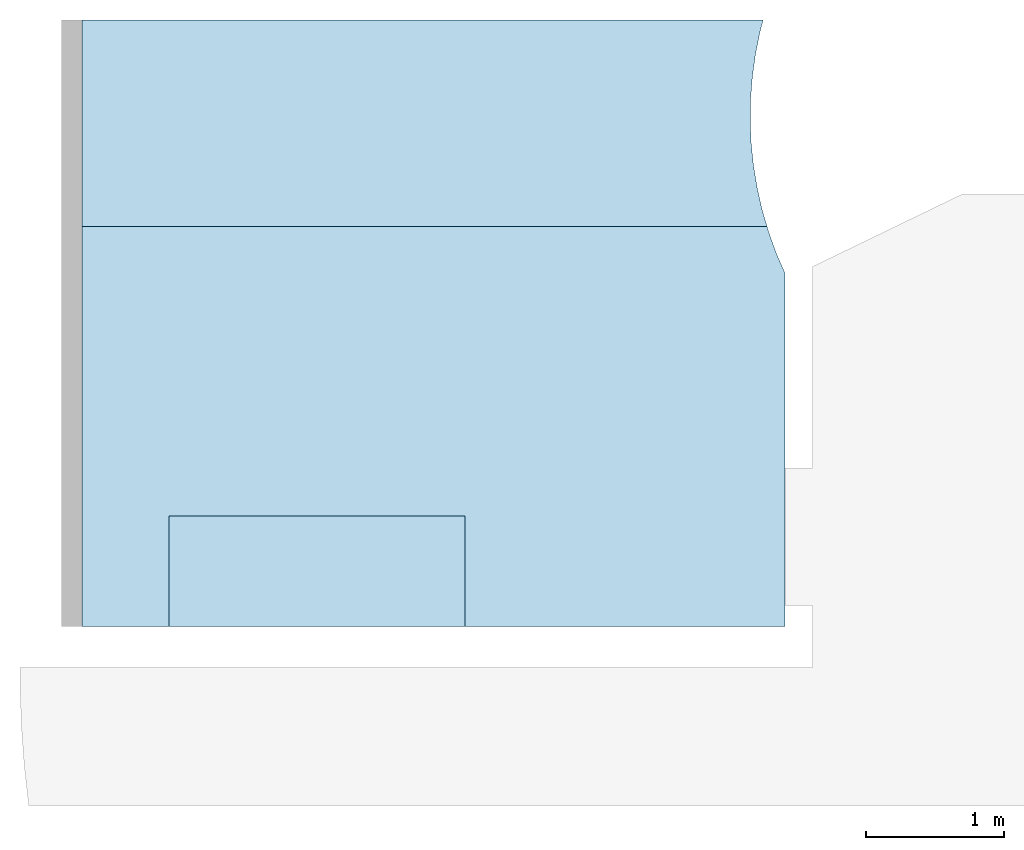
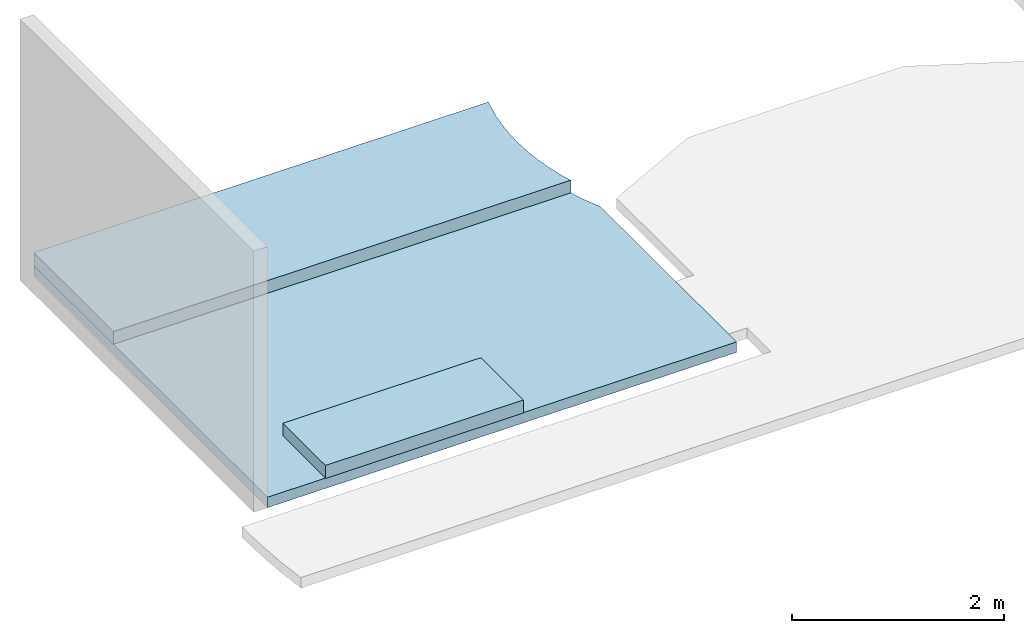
# One storey, part 1 of 3: 3 slabs.
"""IFC4 building model written with IfcOpenShell, lengths in millimetres."""

from ifc_helpers import new_model, entity, si_unit, converted_unit, derived_unit, direction, frame, origin_with_axes, place, context, subcontext, project, spatial, polygons, material, constituent, constituent_set, type_object, element, save


model = new_model("IFC4")

# Units and contexts
model_context = context("Model", 3, precision=0.01, world=origin_with_axes(), true_north=direction((0.0, 1.0)))
body_context = subcontext(model_context, "Body", "Model", "MODEL_VIEW")
ifc_project = project(units=[si_unit("LENGTHUNIT", "METRE", prefix="MILLI"), si_unit("AREAUNIT", "SQUARE_METRE"), si_unit("VOLUMEUNIT", "CUBIC_METRE"), converted_unit("PLANEANGLEUNIT", "DEGREE", entity("IfcPlaneAngleMeasure", 0.0174532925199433), si_unit("PLANEANGLEUNIT", "RADIAN"), dimensions=[0, 0, 0, 0, 0, 0, 0]), converted_unit("TIMEUNIT", "Year", entity("IfcTimeMeasure", 31557600.0), si_unit("TIMEUNIT", "SECOND"), dimensions=[0, 0, 1, 0, 0, 0, 0]), si_unit("MASSUNIT", "GRAM", prefix="KILO"), si_unit("THERMODYNAMICTEMPERATUREUNIT", "DEGREE_CELSIUS"), si_unit("LUMINOUSINTENSITYUNIT", "LUMEN"), si_unit("ENERGYUNIT", "JOULE", prefix="MEGA"), derived_unit("THERMALCONDUCTANCEUNIT", [(si_unit("POWERUNIT", "WATT"), 1), (si_unit("LENGTHUNIT", "METRE"), -1), (si_unit("THERMODYNAMICTEMPERATUREUNIT", "KELVIN"), -1)]), derived_unit("SPECIFICHEATCAPACITYUNIT", [(si_unit("ENERGYUNIT", "JOULE"), 1), (si_unit("MASSUNIT", "GRAM", prefix="KILO"), -1), (si_unit("THERMODYNAMICTEMPERATUREUNIT", "KELVIN"), -1)]), derived_unit("MASSDENSITYUNIT", [(si_unit("MASSUNIT", "GRAM", prefix="KILO"), 1), (si_unit("VOLUMEUNIT", "CUBIC_METRE"), -1)])], contexts=[model_context])

# Site, building, storey
site_placement = place(None, origin_with_axes())
site = spatial("IfcSite", under=ifc_project, at=site_placement, Name="Exteriér", CompositionType="ELEMENT")
building_placement = place(site_placement, origin_with_axes())
building = spatial("IfcBuilding", under=site, at=building_placement, Name="Univerzitní lezecké centrum", CompositionType="ELEMENT")
storey_placement = place(building_placement, frame((0.0, 0.0, 6400.0), z_axis=(0.0, 0.0, 1.0), x_axis=(1.0, 0.0, 0.0)))
storey = spatial("IfcBuildingStorey", under=building, at=storey_placement, Name="3.NP", CompositionType="ELEMENT", Elevation=6400.0)

# Slabs
ifc_material_1 = material(Name="Polyuretanová stěrka")
ifc_constituent_1 = constituent(ifc_material_1, Name="Polyuretanová stěrka")
ifc_material_2 = material(Name="Penetrační nátěr pod polyuretanovou stěrku")
ifc_constituent_2 = constituent(ifc_material_2, Name="Penetrační nátěr pod polyuretanovou stěrku")
ifc_material_3 = material(Name="Samonivelační stěrková hmota")
ifc_constituent_3 = constituent(ifc_material_3, Name="Samonivelační stěrková hmota")
ifc_material_4 = material(Name="Betonová mazanina")
ifc_constituent_4 = constituent(ifc_material_4, Name="Betonová mazanina")
ifc_material_5 = material(Name="PE fólie")
ifc_constituent_5 = constituent(ifc_material_5, Name="PE fólie")
ifc_material_6 = material(Name="Akustická izolace - EPS")
ifc_constituent_6 = constituent(ifc_material_6, Name="Akustická izolace - EPS")
ifc_constituent_set = constituent_set(constituents=[ifc_constituent_1, ifc_constituent_2, ifc_constituent_3, ifc_constituent_4, ifc_constituent_5, ifc_constituent_6], Name="!Podlaha v patře - polyuretanová stěrka")
slab_type_1 = type_object("IfcSlabType", Name="!Podlaha v patře - polyuretanová stěrka 120", PredefinedType="FLOOR")
slab_1_placement = place(storey_placement, frame((-157.8293132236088, 4399.999999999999, 0.0), z_axis=(0.0, 0.0, 1.0), x_axis=(1.0, 0.0, 0.0)))
element("IfcSlab", 1, at=slab_1_placement, inside=storey, type_object=slab_type_1, material=ifc_constituent_set, Name="P05b", PredefinedType="FLOOR", context=body_context, shape_type="Tessellation", body=[
    polygons([(28.64367904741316, -1500.000000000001, -1.000000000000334), (28.64367904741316, -1500.000000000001, 0.0), (41.23572559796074, -1542.701002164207, 0.0), (41.23572559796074, -1542.701002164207, -1.000000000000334), (-4942.319037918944, -1500.000000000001, 0.0), (-4942.319037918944, -1500.000000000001, -1.000000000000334), (-4942.319037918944, -4399.999999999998, 0.0), (-4312.027014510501, -4399.999999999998, 0.0), (-4312.027014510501, -3599.999999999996, 0.0), (-2162.027014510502, -3599.999999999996, 0.0), (-2162.027014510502, -4399.999999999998, 0.0), (157.5131747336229, -4399.999999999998, 0.0), (157.5977066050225, -3250.002226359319, 0.0), (157.5819496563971, -1834.466759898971, 0.0), (97.38379884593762, -1697.59424776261, 0.0), (97.38379884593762, -1697.59424776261, -1.000000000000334), (157.5819496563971, -1834.466759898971, -1.000000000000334), (157.5977066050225, -3250.002226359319, -1.000000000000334), (157.5131747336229, -4399.999999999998, -1.000000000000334), (-2162.027014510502, -4399.999999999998, -1.000000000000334), (-2162.027014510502, -3599.999999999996, -1.000000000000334), (-4312.027014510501, -3599.999999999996, -1.000000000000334), (-4312.027014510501, -4399.999999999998, -1.000000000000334), (-4942.319037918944, -4399.999999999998, -1.000000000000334)], [[[1, 2, 3, 4]], [[5, 2, 1, 6]], [[2, 5, 7, 8, 9, 10, 11, 12, 13, 14, 15, 3]], [[3, 15, 16, 4]], [[6, 1, 4, 16, 17, 18, 19, 20, 21, 22, 23, 24]], [[5, 6, 24, 7]], [[24, 23, 8, 7]], [[22, 9, 8, 23]], [[21, 10, 9, 22]], [[20, 11, 10, 21]], [[12, 11, 20, 19]], [[18, 13, 12, 19]], [[14, 13, 18, 17]], [[15, 14, 17, 16]]], closed=True),
    polygons([(28.64367904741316, -1500.000000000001, -2.000000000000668), (28.64367904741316, -1500.000000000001, -1.000000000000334), (41.23572559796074, -1542.701002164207, -1.000000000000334), (41.23572559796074, -1542.701002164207, -2.000000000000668), (-4942.319037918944, -1500.000000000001, -1.000000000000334), (-4942.319037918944, -1500.000000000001, -2.000000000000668), (-4942.319037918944, -4399.999999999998, -1.000000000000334), (-4312.027014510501, -4399.999999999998, -1.000000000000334), (-4312.027014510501, -3599.999999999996, -1.000000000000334), (-2162.027014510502, -3599.999999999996, -1.000000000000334), (-2162.027014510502, -4399.999999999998, -1.000000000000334), (157.5131747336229, -4399.999999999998, -1.000000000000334), (157.5977066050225, -3250.002226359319, -1.000000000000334), (157.5819496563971, -1834.466759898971, -1.000000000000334), (97.38379884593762, -1697.59424776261, -1.000000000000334), (97.38379884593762, -1697.59424776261, -2.000000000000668), (157.5819496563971, -1834.466759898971, -2.000000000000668), (157.5977066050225, -3250.002226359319, -2.000000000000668), (157.5131747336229, -4399.999999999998, -2.000000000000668), (-2162.027014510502, -4399.999999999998, -2.000000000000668), (-2162.027014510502, -3599.999999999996, -2.000000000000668), (-4312.027014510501, -3599.999999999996, -2.000000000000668), (-4312.027014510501, -4399.999999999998, -2.000000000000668), (-4942.319037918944, -4399.999999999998, -2.000000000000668)], [[[1, 2, 3, 4]], [[5, 2, 1, 6]], [[2, 5, 7, 8, 9, 10, 11, 12, 13, 14, 15, 3]], [[3, 15, 16, 4]], [[6, 1, 4, 16, 17, 18, 19, 20, 21, 22, 23, 24]], [[5, 6, 24, 7]], [[24, 23, 8, 7]], [[22, 9, 8, 23]], [[21, 10, 9, 22]], [[20, 11, 10, 21]], [[12, 11, 20, 19]], [[18, 13, 12, 19]], [[14, 13, 18, 17]], [[15, 14, 17, 16]]], closed=True),
    polygons([(28.64367904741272, -1500.000000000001, -5.00000000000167), (28.64367904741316, -1500.000000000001, -1.99999999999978), (41.23572559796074, -1542.701002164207, -1.99999999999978), (41.23572559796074, -1542.701002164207, -4.999999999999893), (-4942.319037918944, -1500.000000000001, -1.99999999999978), (-4942.319037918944, -1500.000000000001, -5.00000000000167), (-4942.319037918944, -4399.999999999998, -1.99999999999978), (-4312.027014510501, -4399.999999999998, -1.99999999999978), (-4312.027014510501, -3599.999999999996, -1.99999999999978), (-2162.027014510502, -3599.999999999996, -1.99999999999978), (-2162.027014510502, -4399.999999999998, -1.99999999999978), (157.5131747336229, -4399.999999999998, -1.99999999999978), (157.5977066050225, -3250.002226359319, -1.99999999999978), (157.5819496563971, -1834.466759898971, -1.99999999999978), (97.38379884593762, -1697.59424776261, -1.99999999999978), (97.38379884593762, -1697.59424776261, -4.999999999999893), (157.5819496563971, -1834.466759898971, -4.999999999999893), (157.5977066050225, -3250.002226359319, -4.999999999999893), (157.5131747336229, -4399.999999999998, -4.999999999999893), (-2162.027014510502, -4399.999999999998, -4.999999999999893), (-2162.027014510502, -3599.999999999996, -4.999999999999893), (-4312.027014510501, -3599.999999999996, -4.999999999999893), (-4312.027014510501, -4399.999999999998, -4.999999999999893), (-4942.319037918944, -4399.999999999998, -4.999999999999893)], [[[1, 2, 3, 4]], [[5, 2, 1, 6]], [[2, 5, 7, 8, 9, 10, 11, 12, 13, 14, 15, 3]], [[3, 15, 16, 4]], [[6, 1, 4, 16, 17, 18, 19, 20, 21, 22, 23, 24]], [[5, 6, 24, 7]], [[24, 23, 8, 7]], [[22, 9, 8, 23]], [[21, 10, 9, 22]], [[20, 11, 10, 21]], [[12, 11, 20, 19]], [[18, 13, 12, 19]], [[14, 13, 18, 17]], [[15, 14, 17, 16]]], closed=True),
    polygons([(0.0, 0.0, -4.999999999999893), (-4942.319037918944, 0.0, -4.999999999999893), (-4942.319037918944, -4399.999999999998, -4.999999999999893), (157.5131747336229, -4399.999999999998, -4.999999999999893), (157.5977066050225, -3250.002226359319, -4.999999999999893), (157.5819496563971, -1834.466759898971, -4.999999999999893), (97.38379884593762, -1697.59424776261, -4.999999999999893), (41.23572559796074, -1542.701002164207, -4.999999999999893), (-5.365002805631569, -1384.672853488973, -4.999999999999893), (-42.24502859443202, -1224.097676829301, -4.999999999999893), (-69.26715565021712, -1061.572822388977, -4.999999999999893), (-86.33085988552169, -897.702893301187, -4.999999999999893), (-93.37266319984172, -733.0974964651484, -4.999999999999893), (-90.36636962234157, -568.3689747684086, -4.999999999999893), (-77.32316276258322, -404.1301291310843, -4.999999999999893), (-54.29156420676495, -240.9919388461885, -4.999999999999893), (-21.35725301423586, -79.56128869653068, -4.999999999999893), (0.0, 0.0, -78.99999999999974), (-4942.319037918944, 0.0, -78.99999999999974), (-4942.319037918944, -4399.999999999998, -78.99999999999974), (157.5131747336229, -4399.999999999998, -78.99999999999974), (157.5977066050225, -3250.002226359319, -78.99999999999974), (157.5819496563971, -1834.466759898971, -78.99999999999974), (97.38379884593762, -1697.59424776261, -78.99999999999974), (41.23572559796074, -1542.701002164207, -78.99999999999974), (-5.365002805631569, -1384.672853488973, -78.99999999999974), (-42.24502859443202, -1224.097676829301, -78.99999999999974), (-69.26715565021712, -1061.572822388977, -78.99999999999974), (-86.33085988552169, -897.702893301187, -78.99999999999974), (-93.37266319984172, -733.0974964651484, -78.99999999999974), (-90.36636962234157, -568.3689747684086, -78.99999999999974), (-77.32316276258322, -404.1301291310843, -78.99999999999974), (-54.29156420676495, -240.9919388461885, -78.99999999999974), (-21.35725301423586, -79.56128869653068, -78.99999999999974)], [[[1, 2, 3, 4, 5, 6, 7, 8, 9, 10, 11, 12, 13, 14, 15, 16, 17]], [[2, 1, 18, 19]], [[2, 19, 20, 3]], [[3, 20, 21, 4]], [[22, 5, 4, 21]], [[6, 5, 22, 23]], [[7, 6, 23, 24]], [[8, 7, 24, 25]], [[9, 8, 25, 26]], [[10, 9, 26, 27]], [[11, 10, 27, 28]], [[12, 11, 28, 29]], [[13, 12, 29, 30]], [[14, 13, 30, 31]], [[15, 14, 31, 32]], [[16, 15, 32, 33]], [[17, 16, 33, 34]], [[1, 17, 34, 18]], [[23, 22, 21, 20, 19, 18, 34, 33, 32, 31, 30, 29, 28, 27, 26, 25, 24]]], closed=True),
    polygons([(-4942.319037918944, -4399.999999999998, -78.99999999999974), (157.5131747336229, -4399.999999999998, -78.99999999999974), (157.5977066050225, -3250.002226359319, -78.99999999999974), (157.5819496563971, -1834.466759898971, -78.99999999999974), (97.38379884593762, -1697.59424776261, -78.99999999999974), (41.23572559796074, -1542.701002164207, -78.99999999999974), (-5.365002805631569, -1384.672853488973, -78.99999999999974), (-42.24502859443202, -1224.097676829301, -78.99999999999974), (-69.26715565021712, -1061.572822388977, -78.99999999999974), (-86.33085988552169, -897.702893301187, -78.99999999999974), (-93.37266319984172, -733.0974964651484, -78.99999999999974), (-90.36636962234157, -568.3689747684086, -78.99999999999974), (-77.32316276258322, -404.1301291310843, -78.99999999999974), (-54.29156420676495, -240.9919388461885, -78.99999999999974), (-21.35725301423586, -79.56128869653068, -78.99999999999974), (0.0, 0.0, -78.99999999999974), (-4942.319037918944, 0.0, -78.99999999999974), (157.5131747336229, -4399.999999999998, -79.49999999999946), (-4942.319037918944, -4399.999999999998, -79.49999999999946), (157.5977066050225, -3250.002226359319, -79.49999999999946), (157.5819496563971, -1834.466759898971, -79.49999999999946), (97.38379884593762, -1697.59424776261, -79.49999999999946), (41.23572559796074, -1542.701002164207, -79.49999999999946), (-5.365002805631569, -1384.672853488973, -79.49999999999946), (-42.24502859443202, -1224.097676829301, -79.49999999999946), (-69.26715565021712, -1061.572822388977, -79.49999999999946), (-86.33085988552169, -897.702893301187, -79.49999999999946), (-93.37266319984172, -733.0974964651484, -79.49999999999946), (-90.36636962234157, -568.3689747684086, -79.49999999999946), (-77.32316276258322, -404.1301291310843, -79.49999999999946), (-54.29156420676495, -240.9919388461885, -79.49999999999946), (-21.35725301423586, -79.56128869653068, -79.49999999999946), (0.0, 0.0, -79.49999999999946), (-4942.319037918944, 0.0, -79.49999999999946)], [[[1, 2, 3, 4, 5, 6, 7, 8, 9, 10, 11, 12, 13, 14, 15, 16, 17]], [[18, 2, 1, 19]], [[2, 18, 20, 3]], [[20, 21, 4, 3]], [[21, 22, 5, 4]], [[22, 23, 6, 5]], [[23, 24, 7, 6]], [[24, 25, 8, 7]], [[25, 26, 9, 8]], [[26, 27, 10, 9]], [[27, 28, 11, 10]], [[28, 29, 12, 11]], [[29, 30, 13, 12]], [[30, 31, 14, 13]], [[31, 32, 15, 14]], [[32, 33, 16, 15]], [[33, 34, 17, 16]], [[19, 1, 17, 34]], [[18, 19, 34, 33, 32, 31, 30, 29, 28, 27, 26, 25, 24, 23, 22, 21, 20]]], closed=True),
    polygons([(-4942.319037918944, -4399.999999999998, -79.50000000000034), (157.5131747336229, -4399.999999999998, -79.50000000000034), (157.5977066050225, -3250.002226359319, -79.50000000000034), (157.5819496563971, -1834.466759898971, -79.50000000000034), (97.38379884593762, -1697.59424776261, -79.50000000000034), (41.23572559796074, -1542.701002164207, -79.50000000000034), (-5.365002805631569, -1384.672853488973, -79.50000000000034), (-42.24502859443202, -1224.097676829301, -79.50000000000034), (-69.26715565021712, -1061.572822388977, -79.50000000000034), (-86.33085988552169, -897.702893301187, -79.50000000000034), (-93.37266319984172, -733.0974964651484, -79.50000000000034), (-90.36636962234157, -568.3689747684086, -79.50000000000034), (-77.32316276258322, -404.1301291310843, -79.50000000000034), (-54.29156420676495, -240.9919388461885, -79.50000000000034), (-21.35725301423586, -79.56128869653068, -79.50000000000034), (0.0, 0.0, -79.50000000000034), (-4942.319037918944, 0.0, -79.50000000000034), (157.5131747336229, -4399.999999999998, -119.5000000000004), (-4942.319037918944, -4399.999999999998, -119.5000000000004), (157.5977066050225, -3250.002226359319, -119.5000000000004), (157.5819496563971, -1834.466759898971, -119.5000000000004), (97.38379884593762, -1697.59424776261, -119.5000000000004), (41.23572559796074, -1542.701002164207, -119.5000000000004), (-5.365002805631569, -1384.672853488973, -119.5000000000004), (-42.24502859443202, -1224.097676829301, -119.5000000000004), (-69.26715565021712, -1061.572822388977, -119.5000000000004), (-86.33085988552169, -897.702893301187, -119.5000000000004), (-93.37266319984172, -733.0974964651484, -119.5000000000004), (-90.36636962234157, -568.3689747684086, -119.5000000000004), (-77.32316276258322, -404.1301291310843, -119.5000000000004), (-54.29156420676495, -240.9919388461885, -119.5000000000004), (-21.35725301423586, -79.56128869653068, -119.5000000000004), (0.0, 0.0, -119.5000000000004), (-4942.319037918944, 0.0, -119.5000000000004)], [[[1, 2, 3, 4, 5, 6, 7, 8, 9, 10, 11, 12, 13, 14, 15, 16, 17]], [[18, 2, 1, 19]], [[2, 18, 20, 3]], [[3, 20, 21, 4]], [[4, 21, 22, 5]], [[5, 22, 23, 6]], [[6, 23, 24, 7]], [[7, 24, 25, 8]], [[8, 25, 26, 9]], [[9, 26, 27, 10]], [[10, 27, 28, 11]], [[11, 28, 29, 12]], [[12, 29, 30, 13]], [[13, 30, 31, 14]], [[14, 31, 32, 15]], [[15, 32, 33, 16]], [[16, 33, 34, 17]], [[19, 1, 17, 34]], [[18, 19, 34, 33, 32, 31, 30, 29, 28, 27, 26, 25, 24, 23, 22, 21, 20]]], closed=True),
])
ifc_material_7 = material(Name="Beton zákad pod technická zařízení")
slab_type_2 = type_object("IfcSlabType", Name="Beton zákad pod technická zařízení 150", PredefinedType="FLOOR")
slab_2_placement = place(storey_placement, frame((-5100.148351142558, 2900.000000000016, 145.0000000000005), z_axis=(0.0, 0.0, 1.0), x_axis=(1.0, 0.0, 0.0)))
element("IfcSlab", 2, at=slab_2_placement, inside=storey, type_object=slab_type_2, material=ifc_material_7, PredefinedType="FLOOR", context=body_context, shape_type="Tessellation", body=[
    polygons([(0.0, 0.0, 0.0), (0.0, 0.0, -150.0000000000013), (4971.240608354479, 0.0, -150.0000000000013), (4971.240608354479, 0.0, 0.0), (0.0, 1500.0, 0.0), (0.0, 1500.0, -150.0000000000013), (4942.319037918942, 1500.000000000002, -150.0000000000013), (4920.961784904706, 1420.438711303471, -150.0000000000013), (4888.027473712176, 1259.008061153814, -150.0000000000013), (4864.995875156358, 1095.869870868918, -150.0000000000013), (4851.9526682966, 931.631025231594, -150.0000000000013), (4848.9463747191, 766.9025035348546, -150.0000000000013), (4855.988178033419, 602.2971066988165, -150.0000000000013), (4873.051882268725, 438.4271776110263, -150.0000000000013), (4900.074009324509, 275.9023231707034, -150.0000000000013), (4936.954035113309, 115.3271465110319, -150.0000000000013), (4936.954035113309, 115.3271465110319, 0.0), (4900.074009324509, 275.9023231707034, 0.0), (4873.051882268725, 438.4271776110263, 0.0), (4855.988178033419, 602.2971066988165, 0.0), (4848.9463747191, 766.9025035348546, 0.0), (4851.9526682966, 931.631025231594, 0.0), (4864.995875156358, 1095.869870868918, 0.0), (4888.027473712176, 1259.008061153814, 0.0), (4920.961784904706, 1420.438711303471, 0.0), (4942.319037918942, 1500.000000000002, 0.0)], [[[1, 2, 3, 4]], [[5, 6, 2, 1]], [[3, 2, 6, 7, 8, 9, 10, 11, 12, 13, 14, 15, 16]], [[4, 3, 16, 17]], [[5, 1, 4, 17, 18, 19, 20, 21, 22, 23, 24, 25, 26]], [[26, 7, 6, 5]], [[25, 8, 7, 26]], [[24, 9, 8, 25]], [[23, 10, 9, 24]], [[22, 11, 10, 23]], [[21, 12, 11, 22]], [[20, 13, 12, 21]], [[19, 14, 13, 20]], [[18, 15, 14, 19]], [[17, 16, 15, 18]]], closed=True),
])
slab_3_placement = place(storey_placement, frame((-4469.856327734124, 800.0000000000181, 145.0000000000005), z_axis=(0.0, 0.0, 1.0), x_axis=(1.0, 0.0, 0.0)))
element("IfcSlab", 3, at=slab_3_placement, inside=storey, type_object=slab_type_2, material=ifc_material_7, PredefinedType="FLOOR", context=body_context, shape_type="Tessellation", body=[
    polygons([(0.0, 0.0, 0.0), (0.0, 0.0, -150.0000000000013), (0.0, -800.0000000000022, -150.0000000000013), (0.0, -800.0000000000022, 0.0), (2150.0, 0.0, 0.0), (2150.0, 0.0, -150.0000000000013), (2150.0, -800.0000000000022, -150.0000000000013), (2150.0, -800.0000000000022, 0.0)], [[[1, 2, 3, 4]], [[5, 6, 2, 1]], [[3, 2, 6, 7]], [[4, 3, 7, 8]], [[5, 1, 4, 8]], [[8, 7, 6, 5]]], closed=True),
])

save(model, "model.ifc")
